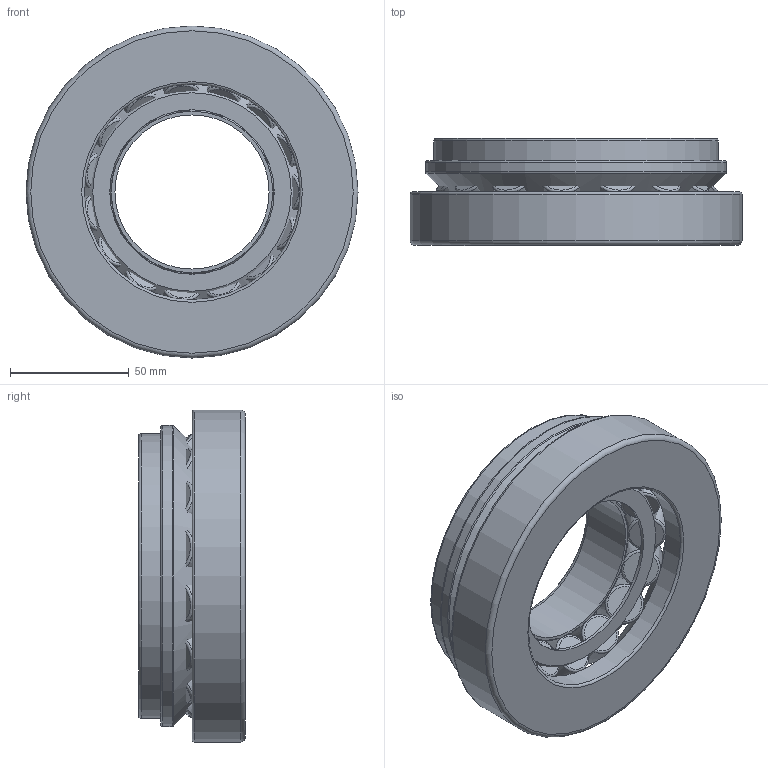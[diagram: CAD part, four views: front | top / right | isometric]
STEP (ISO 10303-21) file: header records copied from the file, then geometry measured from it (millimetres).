
FILE_DESCRIPTION(/* description */ (''),/* implementation_level */ '2;1');
FILE_NAME(/* name */ 'C:\Users\OUREHANEKD\Desktop\Ložiská\MODELY\ASL\294EJ\294--\29413EJ.stp',/* time_stamp */ '2016-09-23T12:54:54+02:00',/* author */ ('OUREHANEKD'),/* organization */ (''),/* preprocessor_version */ 'ST-DEVELOPER v15.6',/* originating_system */ 'Autodesk Inventor 2015',/* authorisation */ '');
FILE_SCHEMA (('AUTOMOTIVE_DESIGN { 1 0 10303 214 3 1 1 }'));
Length unit declared in the file: millimetre
Products named in the file (5): 29413EJ-01; 29413EJ-02; 29413EJ-kl; 29413EJ-roller; 29413EJ
Assembly tree (18 placements, depth 2):
  29413EJ
    29413EJ-01
    29413EJ-02
    29413EJ-kl
    29413EJ-roller  x15
Bounding box: 140 x 45 x 140 mm (x, y, z)
Volume: 376097.3 mm3; surface area: 112959.7 mm2
Topology: 18 solids, 18 shells, 108 faces, 197 edges, 129 vertices
Faces by surface type: plane 40, torus 38, bspline 18, cylinder 9, cone 3
Full cylindrical faces by diameter (mm): 65 x1, 69.32 x1, 91 x1, 120 x2, 124.23 x2, 126.93 x1, 140 x1
Entity records: 1169 total; most frequent: CARTESIAN_POINT 267, DIRECTION 204, AXIS2_PLACEMENT_3D 102, ORIENTED_EDGE 98, EDGE_LOOP 70, EDGE_CURVE 49, CIRCLE 45, VERTEX_POINT 45
